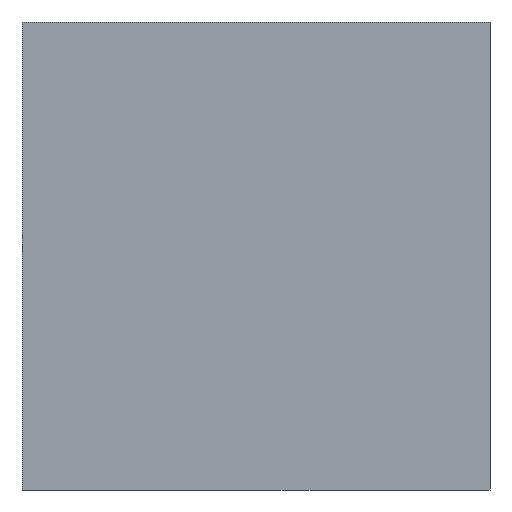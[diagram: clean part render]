
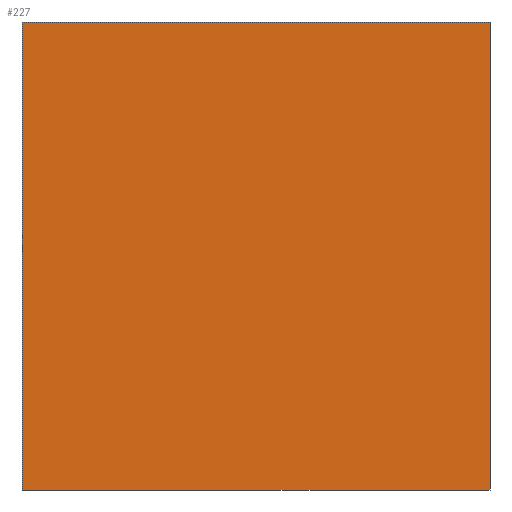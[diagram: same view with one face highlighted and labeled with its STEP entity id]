
A CAD part, left-side view. The second image highlights one B-rep face of the part: STEP entity #227.
In plain terms, the highlighted planar face has unit normal (-1, 0, 0).
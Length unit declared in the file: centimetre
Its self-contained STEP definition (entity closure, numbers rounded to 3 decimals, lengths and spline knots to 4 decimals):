
#8 = VERTEX_POINT ( 'NONE', #418 ) ;
#33 = CARTESIAN_POINT ( 'NONE',  ( 0., 1000., 0. ) ) ;
#63 = DIRECTION ( 'NONE',  ( 1., 0., 0. ) ) ;
#79 = EDGE_CURVE ( 'NONE', #254, #8, #344, .T. ) ;
#104 = VECTOR ( 'NONE', #312, 100. ) ;
#106 = DIRECTION ( 'NONE',  ( 0., -1., 0. ) ) ;
#118 = ORIENTED_EDGE ( 'NONE', *, *, #399, .T. ) ;
#130 = CARTESIAN_POINT ( 'NONE',  ( 0., 0., 0. ) ) ;
#132 = PLANE ( 'NONE',  #284 ) ;
#141 = DIRECTION ( 'NONE',  ( 0., 0., -1. ) ) ;
#161 = DIRECTION ( 'NONE',  ( 0., 0., -1. ) ) ;
#167 = VECTOR ( 'NONE', #106, 100. ) ;
#207 = LINE ( 'NONE', #406, #167 ) ;
#213 = CARTESIAN_POINT ( 'NONE',  ( 0., 0., 1000. ) ) ;
#214 = ORIENTED_EDGE ( 'NONE', *, *, #369, .T. ) ;
#227 = ADVANCED_FACE ( 'NONE', ( #429 ), #132, .F. ) ;
#254 = VERTEX_POINT ( 'NONE', #294 ) ;
#274 = DIRECTION ( 'NONE',  ( 0., 0., -1. ) ) ;
#279 = CARTESIAN_POINT ( 'NONE',  ( 0., 1000., 1000. ) ) ;
#284 = AXIS2_PLACEMENT_3D ( 'NONE', #423, #63, #161 ) ;
#292 = VERTEX_POINT ( 'NONE', #130 ) ;
#294 = CARTESIAN_POINT ( 'NONE',  ( 0., 1000., 1000. ) ) ;
#302 = LINE ( 'NONE', #436, #409 ) ;
#312 = DIRECTION ( 'NONE',  ( 0., -1., 0. ) ) ;
#319 = ORIENTED_EDGE ( 'NONE', *, *, #386, .F. ) ;
#344 = LINE ( 'NONE', #279, #104 ) ;
#355 = EDGE_LOOP ( 'NONE', ( #214, #319, #424, #118 ) ) ;
#369 = EDGE_CURVE ( 'NONE', #421, #292, #207, .T. ) ;
#386 = EDGE_CURVE ( 'NONE', #8, #292, #404, .T. ) ;
#396 = VECTOR ( 'NONE', #274, 100. ) ;
#399 = EDGE_CURVE ( 'NONE', #254, #421, #302, .T. ) ;
#404 = LINE ( 'NONE', #213, #396 ) ;
#406 = CARTESIAN_POINT ( 'NONE',  ( 0., 1000., 0. ) ) ;
#409 = VECTOR ( 'NONE', #141, 100. ) ;
#418 = CARTESIAN_POINT ( 'NONE',  ( 0., 0., 1000. ) ) ;
#421 = VERTEX_POINT ( 'NONE', #33 ) ;
#423 = CARTESIAN_POINT ( 'NONE',  ( 0., 1000., 1000. ) ) ;
#424 = ORIENTED_EDGE ( 'NONE', *, *, #79, .F. ) ;
#429 = FACE_OUTER_BOUND ( 'NONE', #355, .T. ) ;
#436 = CARTESIAN_POINT ( 'NONE',  ( 0., 1000., 1000. ) ) ;
